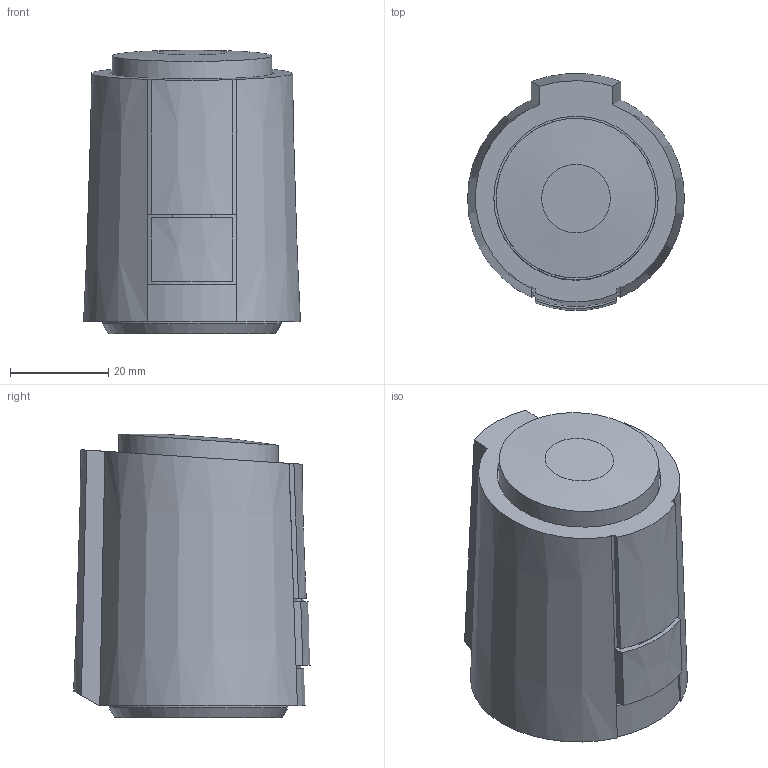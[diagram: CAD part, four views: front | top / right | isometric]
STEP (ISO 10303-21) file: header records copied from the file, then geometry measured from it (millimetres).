
FILE_DESCRIPTION(('STEP AP242'), '1');
FILE_NAME('VT.TE3040.0', '', ('UNSPECIFIED'), ('UNSPECIFIED'), 'C3D Converter', 'C3D Toolkit', '');
FILE_SCHEMA(('AP242_MANAGED_MODEL_BASED_3D_ENGINEERING_MIM_LF { 1 0 10303 442 1 1 4 }'));
Length unit declared in the file: millimetre
Products named in the file (1): ВР.304555.005 СБ
Bounding box: 44.2 x 48.22 x 57.75 mm (x, y, z)
Volume: 74359.9 mm3; surface area: 15679.5 mm2
Topology: 1 solids, 4 shells, 578 faces, 1694 edges, 1127 vertices
Faces by surface type: cylinder 314, plane 245, cone 19
Full cylindrical faces by diameter (mm): 24 x1, 28.376 x1, 32.5 x1, 33.5 x1, 36.4 x1, 37.8 x1
Entity records: 20497 total; most frequent: CARTESIAN_POINT 4478, DIRECTION 3560, ORIENTED_EDGE 3370, EDGE_CURVE 1685, AXIS2_PLACEMENT_3D 1361, VERTEX_POINT 1127, LINE 838, VECTOR 838
